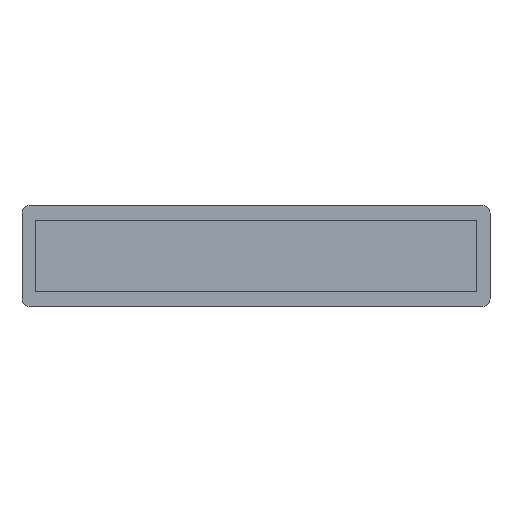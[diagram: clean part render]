
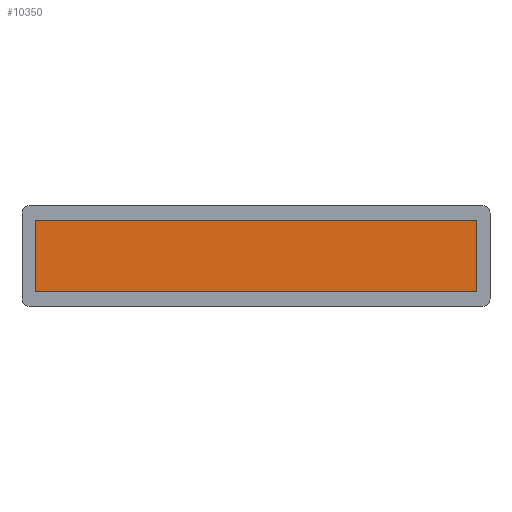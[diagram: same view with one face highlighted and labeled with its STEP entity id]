
A CAD part, front view. The second image highlights one B-rep face of the part: STEP entity #10350.
In plain terms, the highlighted planar face has unit normal (0, -1, 0).
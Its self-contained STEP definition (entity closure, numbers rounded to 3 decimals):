
#403 = DIRECTION ( 'NONE',  ( 1., 0., 0. ) ) ;
#1180 = VECTOR ( 'NONE', #4195, 1000. ) ;
#1474 = DIRECTION ( 'NONE',  ( -1., 0., 0. ) ) ;
#2746 = VERTEX_POINT ( 'NONE', #15737 ) ;
#2759 = CARTESIAN_POINT ( 'NONE',  ( 925., -416.5, 150. ) ) ;
#2864 = ORIENTED_EDGE ( 'NONE', *, *, #9330, .T. ) ;
#2949 = CARTESIAN_POINT ( 'NONE',  ( 925., -416.5, -150. ) ) ;
#2989 = CARTESIAN_POINT ( 'NONE',  ( -925., -416.5, -150. ) ) ;
#3137 = CARTESIAN_POINT ( 'NONE',  ( -925., -416.5, -150. ) ) ;
#3332 = EDGE_CURVE ( 'NONE', #12674, #2746, #4422, .T. ) ;
#4081 = ORIENTED_EDGE ( 'NONE', *, *, #3332, .T. ) ;
#4195 = DIRECTION ( 'NONE',  ( 0., 0., -1. ) ) ;
#4422 = LINE ( 'NONE', #8528, #8388 ) ;
#4471 = DIRECTION ( 'NONE',  ( 0., 0., -1. ) ) ;
#4645 = EDGE_LOOP ( 'NONE', ( #16429, #2864, #4081, #16807 ) ) ;
#4685 = CARTESIAN_POINT ( 'NONE',  ( -925., -416.5, 150. ) ) ;
#5044 = FACE_OUTER_BOUND ( 'NONE', #4645, .T. ) ;
#5405 = DIRECTION ( 'NONE',  ( 0., 0., 1. ) ) ;
#7046 = CARTESIAN_POINT ( 'NONE',  ( 0., -416.5, 0. ) ) ;
#8277 = VERTEX_POINT ( 'NONE', #3137 ) ;
#8295 = LINE ( 'NONE', #2989, #1180 ) ;
#8388 = VECTOR ( 'NONE', #5405, 1000. ) ;
#8528 = CARTESIAN_POINT ( 'NONE',  ( 925., -416.5, -150. ) ) ;
#8814 = PLANE ( 'NONE',  #13762 ) ;
#9330 = EDGE_CURVE ( 'NONE', #8277, #12674, #16034, .T. ) ;
#9422 = VERTEX_POINT ( 'NONE', #4685 ) ;
#10350 = ADVANCED_FACE ( 'NONE', ( #5044 ), #8814, .T. ) ;
#11826 = VECTOR ( 'NONE', #403, 1000. ) ;
#12165 = CARTESIAN_POINT ( 'NONE',  ( 925., -416.5, -150. ) ) ;
#12674 = VERTEX_POINT ( 'NONE', #2949 ) ;
#13395 = EDGE_CURVE ( 'NONE', #9422, #8277, #8295, .T. ) ;
#13762 = AXIS2_PLACEMENT_3D ( 'NONE', #7046, #14863, #4471 ) ;
#14521 = LINE ( 'NONE', #2759, #15494 ) ;
#14863 = DIRECTION ( 'NONE',  ( 0., -1., 0. ) ) ;
#15482 = EDGE_CURVE ( 'NONE', #2746, #9422, #14521, .T. ) ;
#15494 = VECTOR ( 'NONE', #1474, 1000. ) ;
#15737 = CARTESIAN_POINT ( 'NONE',  ( 925., -416.5, 150. ) ) ;
#16034 = LINE ( 'NONE', #12165, #11826 ) ;
#16429 = ORIENTED_EDGE ( 'NONE', *, *, #13395, .T. ) ;
#16807 = ORIENTED_EDGE ( 'NONE', *, *, #15482, .T. ) ;
